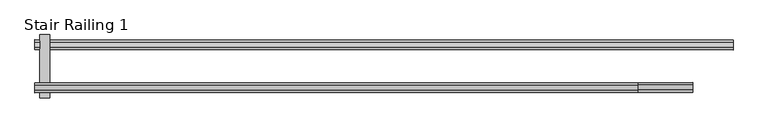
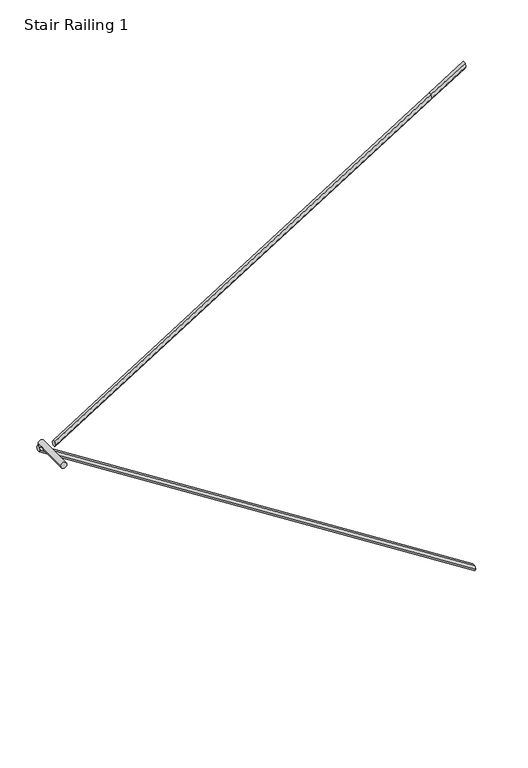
"""IFC4 building model written with IfcOpenShell, lengths in millimetres: railing geometry, Stair Railing 1."""

import ifcopenshell
import ifcopenshell.guid

model = None  # the IFC model being written
_history = None  # IfcOwnerHistory: only IFC2X3 demands one
_inside = {}  # id of a spatial element -> (the spatial element, [elements in it])
_under = {}  # id of a project, library or spatial element -> (it, [spatial elements below it])
_declared = {}  # id of a project -> (the project, [libraries it declares])
_typed = {}  # id of a type object -> (the type object, [elements of that type])
_made_of = {}  # id of a material, layer set ... -> (it, [elements and type objects made of it])


def new_model(schema):
    """Start an empty IFC model of exactly this schema.

    Asked for "IFC4X3", IfcOpenShell would pick the latest addendum, in which some entities
    have other attributes; the version numbers below select the first issue.
    IFC2X3 requires an IfcOwnerHistory on every rooted entity: one is made here for all.
    """
    global model, _history
    if schema == "IFC4X3":
        model = ifcopenshell.file(schema_version=(4, 3, 0, 0))
    else:
        model = ifcopenshell.file(schema=schema)
    _inside.clear()
    _under.clear()
    _declared.clear()
    _typed.clear()
    _made_of.clear()
    _history = None
    if model.schema == "IFC2X3":
        org = make("IfcOrganization", Name="unknown")
        user = make(
            "IfcPersonAndOrganization",
            ThePerson=make("IfcPerson", FamilyName="unknown"),
            TheOrganization=org,
        )
        app = make(
            "IfcApplication",
            ApplicationDeveloper=org,
            Version="unknown",
            ApplicationFullName="unknown",
            ApplicationIdentifier="unknown",
        )
        _history = make(
            "IfcOwnerHistory",
            OwningUser=user,
            OwningApplication=app,
            ChangeAction="ADDED",
            CreationDate=0,
        )
    return model


def make(cls, **values):
    """One entity of the class cls with the attributes given. An attribute that is None is left unset."""
    return model.create_entity(
        cls, **{name: value for name, value in values.items() if value is not None}
    )


def rooted(cls, **values):
    """An entity with a GlobalId (a new one), such as an element, a storey or a relation."""
    return make(cls, GlobalId=ifcopenshell.guid.new(), OwnerHistory=_history, **values)


def si_unit(unit_type, name, prefix=None):
    """IfcSIUnit, for example si_unit("LENGTHUNIT", "METRE", prefix="MILLI")."""
    return make("IfcSIUnit", UnitType=unit_type, Prefix=prefix, Name=name)


def assignment(units):
    """IfcUnitAssignment: the units of a project."""
    return None if units is None else make("IfcUnitAssignment", Units=units)


def point(xyz):
    """IfcCartesianPoint."""
    return None if xyz is None else make("IfcCartesianPoint", Coordinates=xyz)


def direction(xyz):
    """IfcDirection."""
    return None if xyz is None else make("IfcDirection", DirectionRatios=xyz)


def frame(location, z_axis=None, x_axis=None):
    """IfcAxis2Placement3D, a coordinate frame: its origin and axes. An axis left out is left unset."""
    return make(
        "IfcAxis2Placement3D",
        Location=point(location),
        Axis=direction(z_axis),
        RefDirection=direction(x_axis),
    )


def origin():
    """The frame at (0, 0, 0) with its axes left unset."""
    return frame((0.0, 0.0, 0.0))


def place(relative_to, where):
    """IfcLocalPlacement: puts the frame where relative to a parent placement (None: the world)."""
    return make(
        "IfcLocalPlacement", PlacementRelTo=relative_to, RelativePlacement=where
    )


def context(
    kind, dimensions, precision=None, world=None, true_north=None, identifier=None
):
    """IfcGeometricRepresentationContext, for example the 3D "Model" context."""
    return make(
        "IfcGeometricRepresentationContext",
        ContextIdentifier=identifier,
        ContextType=kind,
        CoordinateSpaceDimension=dimensions,
        Precision=precision,
        WorldCoordinateSystem=world,
        TrueNorth=true_north,
    )


def project(units=None, contexts=None):
    """IfcProject with its units and contexts."""
    return rooted(
        "IfcProject",
        Name="project",
        RepresentationContexts=contexts,
        UnitsInContext=assignment(units),
    )


def spatial(cls, under=None, at=None, **own):
    """A site, building, storey or space (cls), placed at a placement, below another one or the project."""
    s = rooted(cls, ObjectPlacement=at, **own)
    if under is not None:
        _under.setdefault(under.id(), (under, []))[1].append(s)
    return s


def circle_curve(where, radius):
    """IfcCircle in the frame where."""
    return make("IfcCircle", Position=where, Radius=radius)


def faces_of(points, faces, orient=None, outer=None):
    """IfcFace entities. A face is a list of loops; a loop is a list of indices into points, from 0.

    orient and outer hold one flag for each loop. By default every Orientation is true, the
    first loop of a face is its IfcFaceOuterBound and the others are IfcFaceBound.
    """
    made = []
    for i, loops in enumerate(faces):
        bounds = []
        for j, loop in enumerate(loops):
            is_outer = j == 0 if outer is None else outer[i][j]
            bounds.append(
                make(
                    "IfcFaceOuterBound" if is_outer else "IfcFaceBound",
                    Bound=make("IfcPolyLoop", Polygon=[points[k] for k in loop]),
                    Orientation=True if orient is None else orient[i][j],
                )
            )
        made.append(make("IfcFace", Bounds=bounds))
    return made


def faceted_brep(points, faces, orient=None, outer=None, voids=None):
    """IfcFacetedBrep: a solid bounded by flat faces; with voids (closed shells), ...WithVoids."""
    shared = [point(p) for p in points]
    hull = make("IfcClosedShell", CfsFaces=faces_of(shared, faces, orient, outer))
    if voids is None:
        return make("IfcFacetedBrep", Outer=hull)
    return make(
        "IfcFacetedBrepWithVoids",
        Outer=hull,
        Voids=[
            make(cls, CfsFaces=faces_of(shared, fs, o, b)) for cls, fs, o, b in voids
        ],
    )


def shape(context_of_items, identifier, shape_type, items):
    """IfcShapeRepresentation: the items that make up one representation, for example the "Body"."""
    return make(
        "IfcShapeRepresentation",
        ContextOfItems=context_of_items,
        RepresentationIdentifier=identifier,
        RepresentationType=shape_type,
        Items=items,
    )


def source(mapping_origin, context_of_items, identifier, shape_type, items):
    """IfcRepresentationMap: a shape defined once, which mapped items show again and again."""
    return make(
        "IfcRepresentationMap",
        MappingOrigin=mapping_origin,
        MappedRepresentation=shape(context_of_items, identifier, shape_type, items),
    )


def transform(
    local_origin,
    x_axis=None,
    y_axis=None,
    z_axis=None,
    scale=None,
    scale2=None,
    scale3=None,
    uniform=True,
):
    """IfcCartesianTransformationOperator3D, or its non-uniform kind. x_axis, y_axis, z_axis: its Axis1, 2, 3."""
    if uniform:
        return make(
            "IfcCartesianTransformationOperator3D",
            Axis1=direction(x_axis),
            Axis2=direction(y_axis),
            LocalOrigin=point(local_origin),
            Scale=scale,
            Axis3=direction(z_axis),
        )
    return make(
        "IfcCartesianTransformationOperator3DnonUniform",
        Axis1=direction(x_axis),
        Axis2=direction(y_axis),
        LocalOrigin=point(local_origin),
        Scale=scale,
        Axis3=direction(z_axis),
        Scale2=scale2,
        Scale3=scale3,
    )


def mapped(mapping_source, mapping_target):
    """IfcMappedItem: shows the shape of a source again, moved by a transform."""
    return make(
        "IfcMappedItem", MappingSource=mapping_source, MappingTarget=mapping_target
    )


def made_of(thing, what):
    """Note that an element or type object is made of a material, layer set ...; save() writes the relation."""
    if what is not None:
        _made_of.setdefault(what.id(), (what, []))[1].append(thing)
    return thing


def element(
    cls,
    number,
    at=None,
    inside=None,
    cuts=None,
    type_object=None,
    material=None,
    context=None,
    identifier="Body",
    shape_type=None,
    held_by="IfcProductDefinitionShape",
    body=None,
    shapes=None,
    **own,
):
    """One element of the class cls, such as IfcWall. Its Tag is "e" and its number.

    at: its placement. inside: the storey or other place that contains it. cuts: it is an
    opening in that element (IfcRelVoidsElement). A single representation is given by context,
    identifier, shape_type and body (its items); several are given by shapes. held_by: the class
    of the entity that holds the representations. save() writes the other relations.
    """
    e = rooted(cls, Tag="e%d" % number, ObjectPlacement=at, **own)
    if body is not None:
        shapes = [shape(context, identifier, shape_type, body)]
    if shapes is not None:
        e.Representation = make(held_by, Representations=shapes)
    if inside is not None:
        _inside.setdefault(inside.id(), (inside, []))[1].append(e)
    if cuts is not None:
        rooted(
            "IfcRelVoidsElement", RelatingBuildingElement=cuts, RelatedOpeningElement=e
        )
    if type_object is not None:
        _typed.setdefault(type_object.id(), (type_object, []))[1].append(e)
    return made_of(e, material)


def aggregate(whole, parts):
    """IfcRelAggregates: a whole, such as a stair, and the parts it consists of."""
    return rooted("IfcRelAggregates", RelatingObject=whole, RelatedObjects=parts)


def save(model, path):
    """Write the relations noted so far, then the file.

    IfcRelAggregates (storeys below a building ...), IfcRelContainedInSpatialStructure (elements
    in a storey), IfcRelDefinesByType, IfcRelAssociatesMaterial and IfcRelDeclares: one each for
    every whole, place, type object, material and project.
    """
    for whole, parts in _under.values():
        aggregate(whole, parts)
    for where, things in _inside.values():
        rooted(
            "IfcRelContainedInSpatialStructure",
            RelatedElements=things,
            RelatingStructure=where,
        )
    for kind, things in _typed.values():
        rooted("IfcRelDefinesByType", RelatedObjects=things, RelatingType=kind)
    for what, things in _made_of.values():
        rooted("IfcRelAssociatesMaterial", RelatedObjects=things, RelatingMaterial=what)
    for by, libraries in _declared.values():
        rooted("IfcRelDeclares", RelatingContext=by, RelatedDefinitions=libraries)
    model.write(path)


def plane_surface(at):
    """IfcPlane: the flat surface through the origin of the frame at, square to its z axis."""
    return make("IfcPlane", Position=at)


def cylinder_surface(at, radius):
    """IfcCylindricalSurface: all points at the distance radius from the z axis of the frame at."""
    return make("IfcCylindricalSurface", Position=at, Radius=radius)


def advanced_brep(points, edges, surfaces, faces):
    """IfcAdvancedBrep: a solid bounded by faces that lie on surfaces and meet in shared edges.

    An edge is (start, end): straight between two places in points (the first is 0);
    or (start, end, curve); or (start, end, curve, False) where it runs against its curve.
    A face is (place in surfaces, loops), or (place, loops, False) where it looks against
    its surface's normal. A loop lists edges by number (the first is 1), with a minus sign
    where the edge is run from its end to its start. The first loop is the outer one.
    """
    corners = [point(p) for p in points]
    vertices = [make("IfcVertexPoint", VertexGeometry=c) for c in corners]
    made = []
    for start, end, *more in edges:
        made.append(
            make(
                "IfcEdgeCurve",
                EdgeStart=vertices[start],
                EdgeEnd=vertices[end],
                EdgeGeometry=more[0] if more else make("IfcPolyline", Points=[corners[start], corners[end]]),
                SameSense=more[1] if len(more) > 1 else True,
            )
        )
    hull = []
    for where, loops, *sense in faces:
        bounds = []
        for j, loop in enumerate(loops):
            ring = [make("IfcOrientedEdge", EdgeElement=made[abs(k) - 1], Orientation=k > 0) for k in loop]
            bounds.append(
                make(
                    "IfcFaceOuterBound" if j == 0 else "IfcFaceBound",
                    Bound=make("IfcEdgeLoop", EdgeList=ring),
                    Orientation=True,
                )
            )
        hull.append(make("IfcAdvancedFace", Bounds=bounds, FaceSurface=surfaces[where], SameSense=sense[0] if sense else True))
    return make("IfcAdvancedBrep", Outer=make("IfcClosedShell", CfsFaces=hull))


def stair_railing_1_ea28da98(model_context):
    return source(origin(), model_context, "Body", "SolidModel", [
        faceted_brep([(46974.7398084, 46191.4865351, 9028.2888889), (46974.7398084, 46204.1865351, 9050.2859341), (46974.7398084, 46229.5865351, 9050.2859341), (46974.7398084, 46242.2865351, 9028.2888889), (46974.7398084, 46229.5865351, 9006.2918436), (46974.7398084, 46204.1865351, 9006.2918436), (50533.2139908, 46191.4865351, 6753.5777778), (50533.2139908, 46204.1865351, 6731.5807325), (50533.2139908, 46229.5865351, 6731.5807325), (50533.2139908, 46242.2865351, 6753.5777778), (50533.2139908, 46229.5865351, 6775.574823), (50533.2139908, 46204.1865351, 6775.574823)], [[[0, 1, 2, 3, 4, 5]], [[6, 7, 8, 9, 10, 11]], [[1, 0, 6, 11]], [[2, 1, 11, 10]], [[3, 2, 10, 9]], [[4, 3, 9, 8]], [[5, 4, 8, 7]], [[0, 5, 7, 6]]]),
        advanced_brep(
        [(47050.9398084, 45946.4030566, 9028.2888889), (47000.1398084, 45946.4030566, 9028.2888889), (47050.9398084, 46267.6865351, 9028.2888889), (47000.1398084, 46267.6865351, 9028.2888889)],
        [
            (0, 1, circle_curve(frame((47025.5398084, 45946.4030566, 9028.2888889), z_axis=(0.0, -1.0, 0.0), x_axis=(1.0, 0.0, 0.0)), 25.4)),
            (1, 0, circle_curve(frame((47025.5398084, 45946.4030566, 9028.2888889), z_axis=(0.0, -1.0, 0.0), x_axis=(1.0, 0.0, 0.0)), 25.4)),
            (2, 3, circle_curve(frame((47025.5398084, 46267.6865351, 9028.2888889), z_axis=(0.0, 1.0, 0.0), x_axis=(1.0, 0.0, 0.0)), 25.4)),
            (3, 2, circle_curve(frame((47025.5398084, 46267.6865351, 9028.2888889), z_axis=(0.0, 1.0, 0.0), x_axis=(1.0, 0.0, 0.0)), 25.4)),
            (0, 2),
            (3, 1),
        ],
        [
            plane_surface(frame((47050.9398084, 45946.4030566, 9002.8888889), z_axis=(0.0, -1.0, 0.0), x_axis=(0.0, 0.0, -1.0))),
            plane_surface(frame((47050.9398084, 46267.6865351, 9002.8888889), z_axis=(0.0, 1.0, 0.0), x_axis=(0.0, 0.0, 1.0))),
            cylinder_surface(frame((47025.5398084, 46267.6865351, 9028.2888889), z_axis=(0.0, -1.0, 0.0), x_axis=(1.0, 0.0, 0.0)), 25.4),
        ],
        [
            (0, [[1, 2]]),
            (1, [[3, 4]]),
            (2, [[-1, 5, -4, 6]]),
            (2, [[-2, -6, -3, -5]]),
        ],
    ),
        faceted_brep([(50048.1398084, 46022.6030566, 11128.0222222), (50048.1398084, 46009.9030566, 11150.0192675), (50048.1398084, 45984.5030566, 11150.0192675), (50048.1398084, 45971.8030566, 11128.0222222), (50048.1398084, 45984.5030566, 11106.025177), (50048.1398084, 46009.9030566, 11106.025177), (46974.7398084, 46022.6030566, 9203.2666667), (46974.7398084, 46009.9030566, 9181.2696214), (46974.7398084, 45984.5030566, 9181.2696214), (46974.7398084, 45971.8030566, 9203.2666667), (46974.7398084, 45984.5030566, 9225.2637119), (46974.7398084, 46009.9030566, 9225.2637119)], [[[0, 1, 2, 3, 4, 5]], [[6, 7, 8, 9, 10, 11]], [[1, 0, 6, 11]], [[2, 1, 11, 10]], [[3, 2, 10, 9]], [[4, 3, 9, 8]], [[5, 4, 8, 7]], [[0, 5, 7, 6]]]),
        faceted_brep([(50327.5398084, 46022.6030566, 11303.0), (50327.5398084, 46009.9030566, 11324.9970453), (50327.5398084, 45984.5030566, 11324.9970453), (50327.5398084, 45971.8030566, 11303.0), (50327.5398084, 45984.5030566, 11281.0029547), (50327.5398084, 46009.9030566, 11281.0029547), (50048.1398084, 46022.6030566, 11128.0222222), (50048.1398084, 46009.9030566, 11106.025177), (50048.1398084, 45984.5030566, 11106.025177), (50048.1398084, 45971.8030566, 11128.0222222), (50048.1398084, 45984.5030566, 11150.0192675), (50048.1398084, 46009.9030566, 11150.0192675)], [[[0, 1, 2, 3, 4, 5]], [[6, 7, 8, 9, 10, 11]], [[1, 0, 6, 11]], [[2, 1, 11, 10]], [[3, 2, 10, 9]], [[4, 3, 9, 8]], [[5, 4, 8, 7]], [[0, 5, 7, 6]]]),
    ])


if __name__ == "__main__":
    model = new_model("IFC4")
    model_context = context("Model", 3, world=origin())
    ifc_project = project(units=[si_unit("LENGTHUNIT", "METRE", prefix="MILLI")], contexts=[model_context])
    site = spatial("IfcSite", under=ifc_project)
    building = spatial("IfcBuilding", under=site)
    placement = place(None, origin())
    stair_railing_1_shape = stair_railing_1_ea28da98(model_context)
    element("IfcRailing", 1, ObjectType="Stair Railing 1", at=placement, inside=building, context=model_context, shape_type="MappedRepresentation", body=[
        mapped(stair_railing_1_shape, transform((0.0, 0.0, 0.0), x_axis=(1.0, 0.0, 0.0), y_axis=(0.0, 1.0, 0.0), z_axis=(0.0, 0.0, 1.0))),
    ])
    save(model, "model.ifc")
